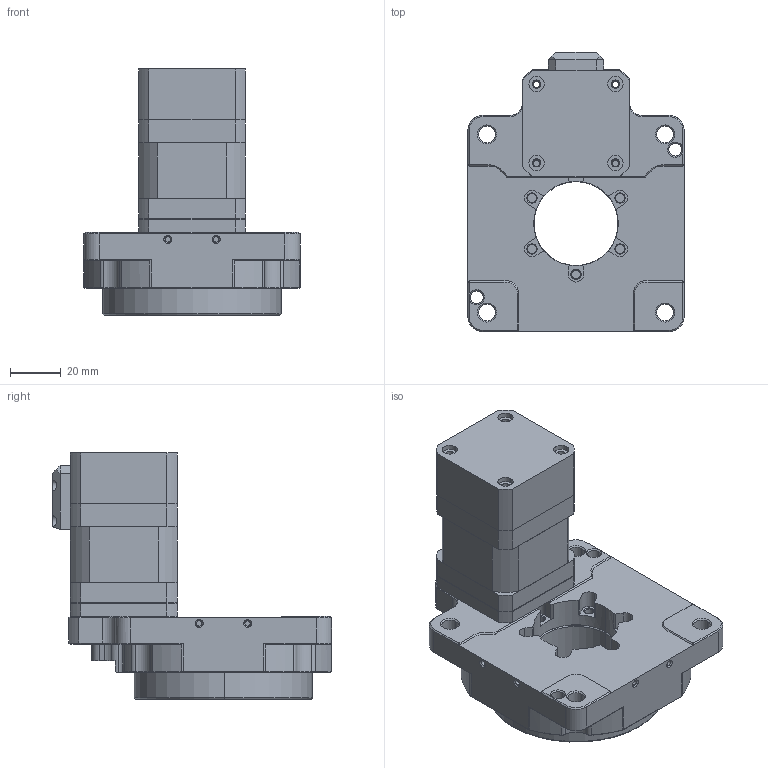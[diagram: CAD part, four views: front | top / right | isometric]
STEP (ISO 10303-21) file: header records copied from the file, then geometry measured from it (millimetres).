
FILE_DESCRIPTION (( 'STEP AP214' ), '1' );
FILE_NAME ('GT85-C-18-RS-2.STEP', '2024-07-08T00:31:53', ( '' ), ( '' ), 'SwSTEP 2.0', 'SolidWorks 2021', '' );
FILE_SCHEMA (( 'AUTOMOTIVE_DESIGN' ));
Length unit declared in the file: millimetre
Products named in the file (1): GT85-C-18-RS-2
Bounding box: 85 x 109.7 x 96.7 mm (x, y, z)
Volume: 214446.6 mm3; surface area: 82321.6 mm2
Topology: 9 solids, 16 shells, 1287 faces, 3328 edges, 2132 vertices
Faces by surface type: plane 687, cylinder 320, cone 209, bspline 57, torus 14
Entity records: 49109 total; most frequent: CARTESIAN_POINT 8746, ORIENTED_EDGE 6624, DIRECTION 6383, EDGE_CURVE 3312, LINE 2175, VECTOR 2175, VERTEX_POINT 2132, AXIS2_PLACEMENT_3D 2104
